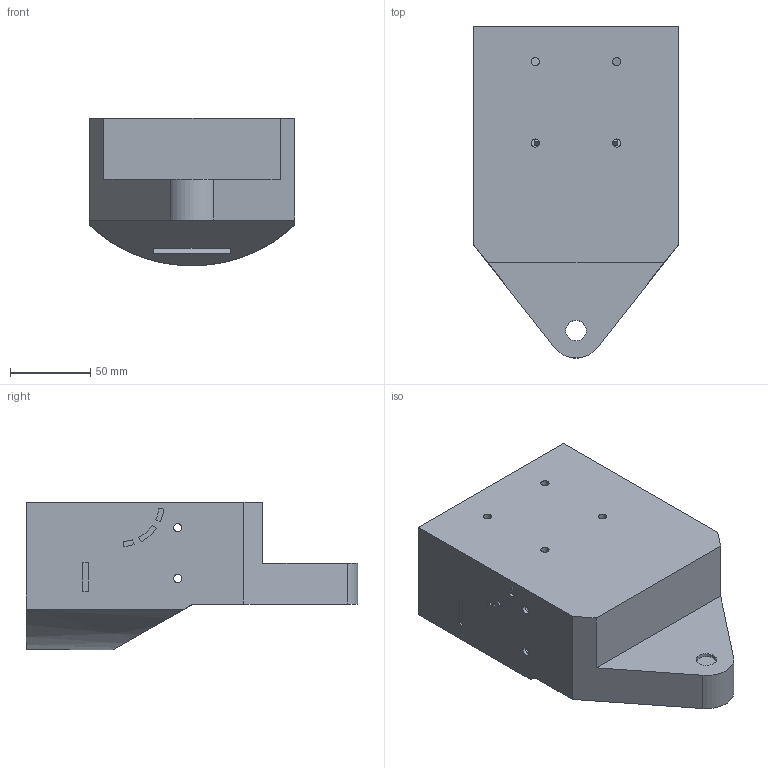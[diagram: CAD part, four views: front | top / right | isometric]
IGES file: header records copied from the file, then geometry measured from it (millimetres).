
Start section: 3D InterOp IGES (Version 21 0 3), Spatial Corp. Copyright (c) 1999-2007.
Global section: file name: CSR ANKLE OUTER - 20140610.igs; native system: Spatial Corp.; preprocessor: 3D InterOp GENERIC/IGES 3.0; author: Noname; organization: Noname; date: 20140621.122126; units: inch
Bounding box: 128.27 x 206.95 x 92.04 mm (x, y, z)
Surface area: 146622.7 mm2 (no closed solid volume)
Topology: 0 solids, 0 shells, 101 faces, 540 edges, 540 vertices
Faces by surface type: extrusion 57, revolution 44
